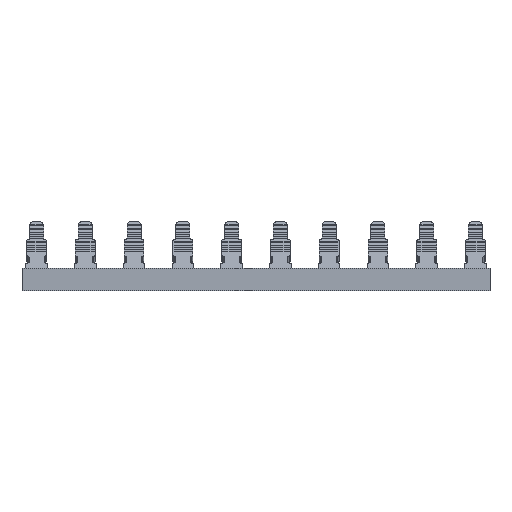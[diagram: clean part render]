
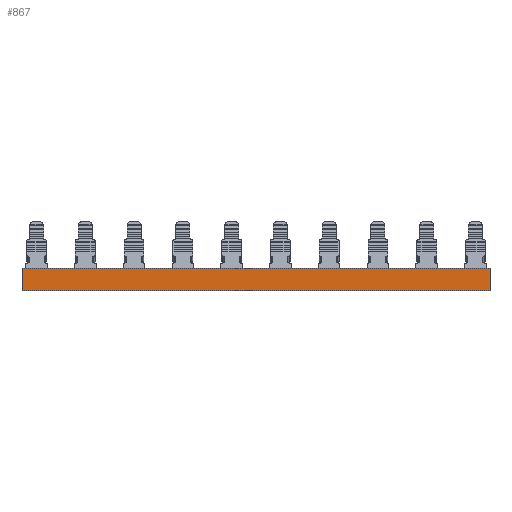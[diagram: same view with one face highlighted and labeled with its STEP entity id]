
A CAD part, front view. The second image highlights one B-rep face of the part: STEP entity #867.
In plain terms, the highlighted planar face has unit normal (0, -1, 0).
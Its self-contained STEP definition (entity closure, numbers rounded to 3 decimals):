
#867=ADVANCED_FACE('',(#2271),#1649,.F.);
#1649=PLANE('',#16702);
#2271=FACE_OUTER_BOUND('',#3053,.T.);
#3053=EDGE_LOOP('',(#5882,#5883,#5884,#5885));
#5882=ORIENTED_EDGE('',*,*,#11636,.F.);
#5883=ORIENTED_EDGE('',*,*,#11623,.F.);
#5884=ORIENTED_EDGE('',*,*,#11637,.T.);
#5885=ORIENTED_EDGE('',*,*,#11612,.T.);
#9652=VERTEX_POINT('',#24985);
#9653=VERTEX_POINT('',#24986);
#9661=VERTEX_POINT('',#25006);
#9662=VERTEX_POINT('',#25008);
#11612=EDGE_CURVE('',#9652,#9653,#13558,.T.);
#11623=EDGE_CURVE('',#9661,#9662,#13569,.T.);
#11636=EDGE_CURVE('',#9662,#9653,#13580,.T.);
#11637=EDGE_CURVE('',#9661,#9652,#13581,.T.);
#13558=LINE('',#24984,#15408);
#13569=LINE('',#25007,#15419);
#13580=LINE('',#25031,#15430);
#13581=LINE('',#25032,#15431);
#15408=VECTOR('',#20051,1.);
#15419=VECTOR('',#20066,1.);
#15430=VECTOR('',#20087,1.);
#15431=VECTOR('',#20088,1.);
#16702=AXIS2_PLACEMENT_3D('',#25033,#20089,#20090);
#20051=DIRECTION('',(0.,0.,-1.));
#20066=DIRECTION('',(0.,0.,-1.));
#20087=DIRECTION('',(-1.,0.,0.));
#20088=DIRECTION('',(-1.,0.,0.));
#20089=DIRECTION('',(0.,1.,0.));
#20090=DIRECTION('',(-1.,0.,0.));
#24984=CARTESIAN_POINT('',(2940.321,-1457.43,-10.));
#24985=CARTESIAN_POINT('',(2940.321,-1457.43,0.));
#24986=CARTESIAN_POINT('',(2940.321,-1457.43,-2.4));
#25006=CARTESIAN_POINT('',(2990.221,-1457.43,0.));
#25007=CARTESIAN_POINT('',(2990.221,-1457.43,-10.));
#25008=CARTESIAN_POINT('',(2990.221,-1457.43,-2.4));
#25031=CARTESIAN_POINT('',(3008.962,-1457.43,-2.4));
#25032=CARTESIAN_POINT('',(3008.962,-1457.43,0.));
#25033=CARTESIAN_POINT('',(2990.221,-1457.43,-10.));
